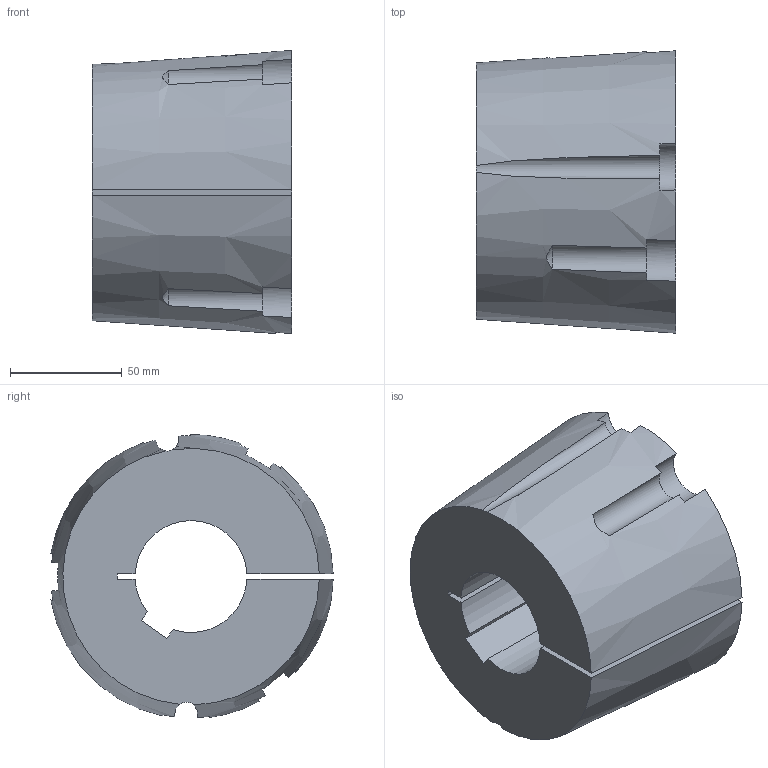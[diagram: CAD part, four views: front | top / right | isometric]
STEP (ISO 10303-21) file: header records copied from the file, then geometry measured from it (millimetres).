
FILE_DESCRIPTION( ( 'STEP AP203' ), '1' );
FILE_NAME( 'D:/export/antriebselemente/spannbuchsen_und_spannsaetze/taper-spannbuchsen_1008_bis_5050/taper-spannbuchsen_62251050Isometric_211.stp', '2018-12-11T11:11:27', ( '' ), ( '' ), ' ', 'PARTsolutions', ' ' );
FILE_SCHEMA( ( 'CONFIG_CONTROL_DESIGN' ) );
Length unit declared in the file: millimetre
Products named in the file (1): _taper-spannbuchsen_62251050
Bounding box: 89 x 126.13 x 126.46 mm (x, y, z)
Volume: 808009.3 mm3; surface area: 76377.8 mm2
Topology: 1 solids, 1 shells, 34 faces, 96 edges, 64 vertices
Faces by surface type: plane 15, cylinder 13, cone 6
Entity records: 1315 total; most frequent: CARTESIAN_POINT 391, ORIENTED_EDGE 192, DIRECTION 186, EDGE_CURVE 96, AXIS2_PLACEMENT_3D 80, VERTEX_POINT 64, CIRCLE 45, ADVANCED_FACE 34
